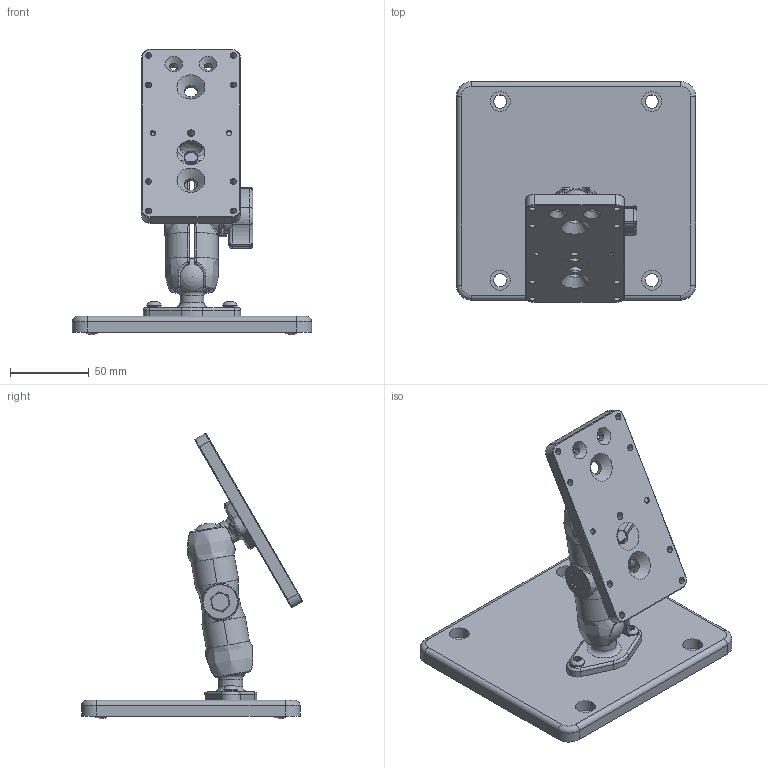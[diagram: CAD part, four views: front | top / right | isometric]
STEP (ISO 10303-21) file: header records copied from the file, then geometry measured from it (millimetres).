
FILE_DESCRIPTION(/* description */ (''),/* implementation_level */ '2;1');
FILE_NAME(/* name */ 'C:\Users\ntakaki\Desktop\AC1100\AC1100.step',/* time_stamp */ '2022-01-13T14:15:13-05:00',/* author */ ('ntakaki'),/* organization */ (''),/* preprocessor_version */ 'ST-DEVELOPER v18.1',/* originating_system */ 'AutoCAD Mechanical',/* authorisation */ '');
FILE_SCHEMA (('AUTOMOTIVE_DESIGN { 1 0 10303 214 3 1 1 }'));
Products named in the file (1): Product
Bounding box: 152.4 x 140.72 x 181.81 mm (x, y, z)
Volume: 359159.5 mm3; surface area: 92897.6 mm2
Topology: 2 solids, 12 shells, 856 faces, 2317 edges, 1496 vertices
Faces by surface type: cylinder 279, plane 216, bspline 175, cone 80, torus 64, sphere 42
Full cylindrical faces by diameter (mm): 3.478 x1, 3.683 x1, 3.795 x55, 4.039 x8, 4.47 x2, 4.763 x1, 4.826 x48, 5.131 x2, 5.588 x4, 6.35 x2, 8.2 x1, 8.382 x7, 8.636 x4, 9.169 x4, 10.16 x4, 12.7 x4, 15.24 x2, 19.4 x1
Entity records: 53941 total; most frequent: CARTESIAN_POINT 34659, ORIENTED_EDGE 4582, DIRECTION 3412, EDGE_CURVE 2291, VERTEX_POINT 1496, AXIS2_PLACEMENT_3D 1373, EDGE_LOOP 953, FACE_OUTER_BOUND 856
